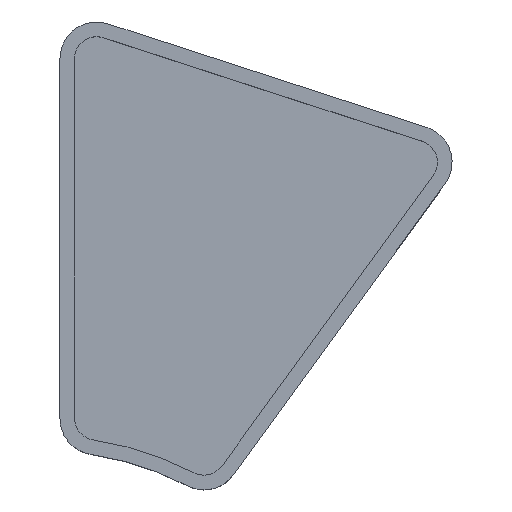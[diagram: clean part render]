
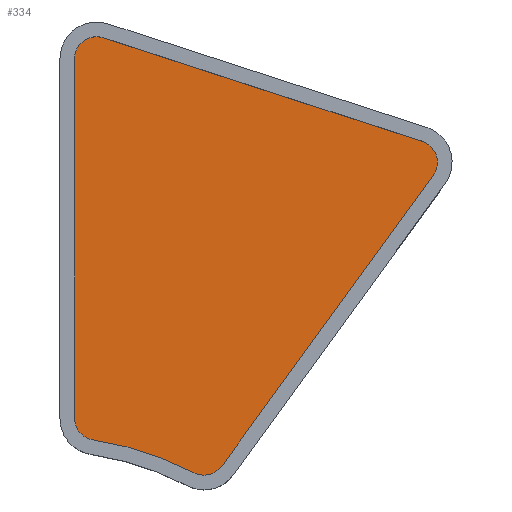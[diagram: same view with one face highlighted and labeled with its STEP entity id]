
A CAD part, top view. The second image highlights one B-rep face of the part: STEP entity #334.
In plain terms, the highlighted planar face has unit normal (0, 0, 1).
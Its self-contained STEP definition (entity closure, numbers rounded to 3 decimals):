
#19=PLANE('',#377);
#33=FACE_OUTER_BOUND('',#52,.T.);
#52=EDGE_LOOP('',(#252,#253,#254,#255,#256,#257,#258,#259));
#67=LINE('',#524,#95);
#71=LINE('',#536,#99);
#75=LINE('',#548,#103);
#95=VECTOR('',#417,9.9);
#99=VECTOR('',#429,9.9);
#103=VECTOR('',#441,9.9);
#120=CIRCLE('',#360,43.56);
#122=CIRCLE('',#363,2.97);
#124=CIRCLE('',#367,2.97);
#126=CIRCLE('',#371,2.97);
#128=CIRCLE('',#375,2.97);
#140=VERTEX_POINT('',#508);
#141=VERTEX_POINT('',#509);
#144=VERTEX_POINT('',#517);
#146=VERTEX_POINT('',#523);
#148=VERTEX_POINT('',#529);
#150=VERTEX_POINT('',#535);
#152=VERTEX_POINT('',#541);
#154=VERTEX_POINT('',#547);
#172=EDGE_CURVE('',#140,#141,#120,.F.);
#176=EDGE_CURVE('',#144,#140,#122,.F.);
#179=EDGE_CURVE('',#146,#144,#67,.F.);
#182=EDGE_CURVE('',#148,#146,#124,.F.);
#185=EDGE_CURVE('',#150,#148,#71,.F.);
#188=EDGE_CURVE('',#152,#150,#126,.F.);
#191=EDGE_CURVE('',#154,#152,#75,.F.);
#194=EDGE_CURVE('',#141,#154,#128,.F.);
#252=ORIENTED_EDGE('',*,*,#194,.T.);
#253=ORIENTED_EDGE('',*,*,#191,.T.);
#254=ORIENTED_EDGE('',*,*,#188,.T.);
#255=ORIENTED_EDGE('',*,*,#185,.T.);
#256=ORIENTED_EDGE('',*,*,#182,.T.);
#257=ORIENTED_EDGE('',*,*,#179,.T.);
#258=ORIENTED_EDGE('',*,*,#176,.T.);
#259=ORIENTED_EDGE('',*,*,#172,.T.);
#334=ADVANCED_FACE('',(#33),#19,.T.);
#360=AXIS2_PLACEMENT_3D('',#510,#402,#403);
#363=AXIS2_PLACEMENT_3D('',#518,#410,#411);
#367=AXIS2_PLACEMENT_3D('',#530,#422,#423);
#371=AXIS2_PLACEMENT_3D('',#542,#434,#435);
#375=AXIS2_PLACEMENT_3D('',#553,#446,#447);
#377=AXIS2_PLACEMENT_3D('',#555,#450,#451);
#402=DIRECTION('center_axis',(0.,0.,1.));
#403=DIRECTION('ref_axis',(0.549,0.836,0.));
#410=DIRECTION('center_axis',(0.,0.,-1.));
#411=DIRECTION('ref_axis',(-0.758,-0.652,0.));
#417=DIRECTION('',(0.,1.,0.));
#422=DIRECTION('center_axis',(0.,0.,-1.));
#423=DIRECTION('ref_axis',(-0.588,0.809,0.));
#429=DIRECTION('',(0.951,-0.309,0.));
#434=DIRECTION('center_axis',(0.,0.,-1.));
#435=DIRECTION('ref_axis',(0.951,0.309,0.));
#441=DIRECTION('',(-0.588,-0.809,0.));
#446=DIRECTION('center_axis',(0.,0.,-1.));
#447=DIRECTION('ref_axis',(0.23,-0.973,0.));
#450=DIRECTION('center_axis',(0.,0.,1.));
#451=DIRECTION('ref_axis',(-0.809,-0.588,0.));
#508=CARTESIAN_POINT('',(-245.494,-126.059,7.98));
#509=CARTESIAN_POINT('',(-231.912,-130.472,7.98));
#510=CARTESIAN_POINT('Origin',(-251.982,-169.133,7.98));
#517=CARTESIAN_POINT('',(-248.022,-123.122,7.98));
#518=CARTESIAN_POINT('Origin',(-245.052,-123.122,7.98));
#523=CARTESIAN_POINT('',(-248.022,-74.577,7.98));
#524=CARTESIAN_POINT('',(-248.022,-121.855,7.98));
#529=CARTESIAN_POINT('',(-244.134,-71.752,7.98));
#530=CARTESIAN_POINT('Origin',(-245.052,-74.577,7.98));
#535=CARTESIAN_POINT('',(-201.092,-85.737,7.98));
#536=CARTESIAN_POINT('',(-211.853,-82.241,7.98));
#541=CARTESIAN_POINT('',(-199.607,-90.308,7.98));
#542=CARTESIAN_POINT('Origin',(-202.01,-88.562,7.98));
#547=CARTESIAN_POINT('',(-228.141,-129.582,7.98));
#548=CARTESIAN_POINT('',(-241.664,-148.194,7.98));
#553=CARTESIAN_POINT('Origin',(-230.544,-127.836,7.98));
#555=CARTESIAN_POINT('Origin',(-251.982,-169.133,7.98));
